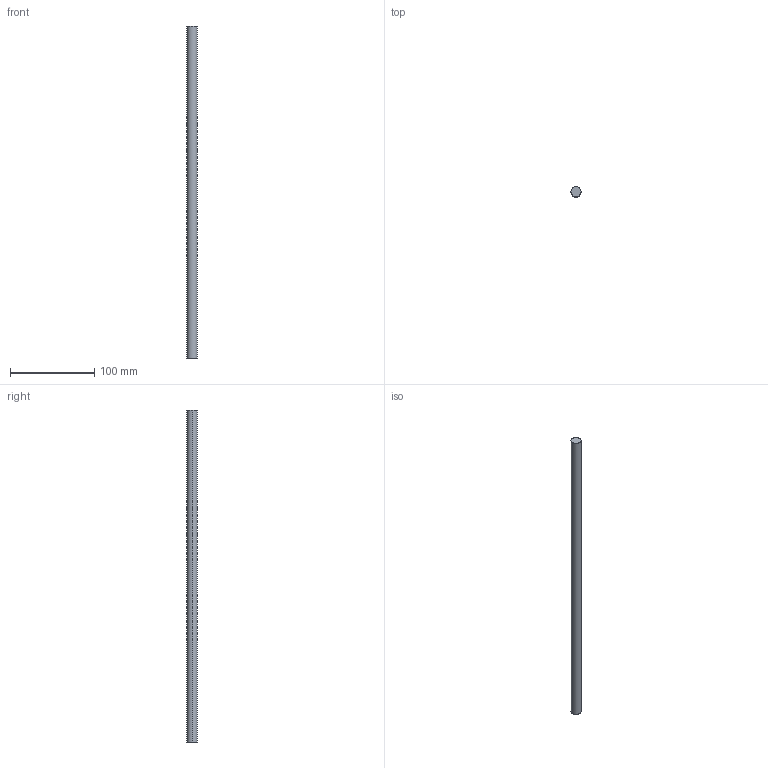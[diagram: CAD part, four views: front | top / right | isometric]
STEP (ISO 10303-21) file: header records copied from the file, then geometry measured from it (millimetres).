
FILE_DESCRIPTION (( 'STEP AP214' ), '1' );
FILE_NAME ('Magic Reling quer - S16_S17 - 500.step', '2010-09-07T14:56:07', ( 'grass' ), ( '' ), 'SwSTEP 2.0', 'SolidWorks 2010', '' );
FILE_SCHEMA (( 'AUTOMOTIVE_DESIGN' ));
Length unit declared in the file: millimetre
Products named in the file (1): Magic Reling quer - S16_S17 - 500
Bounding box: 12 x 12 x 395 mm (x, y, z)
Volume: 44673.4 mm3; surface area: 15117.3 mm2
Topology: 1 solids, 1 shells, 4 faces, 6 edges, 4 vertices
Faces by surface type: cylinder 2, plane 2
Entity records: 128 total; most frequent: DIRECTION 20, CARTESIAN_POINT 15, ORIENTED_EDGE 12, AXIS2_PLACEMENT_3D 9, EDGE_CURVE 6, FACE_OUTER_BOUND 4, EDGE_LOOP 4, CIRCLE 4
